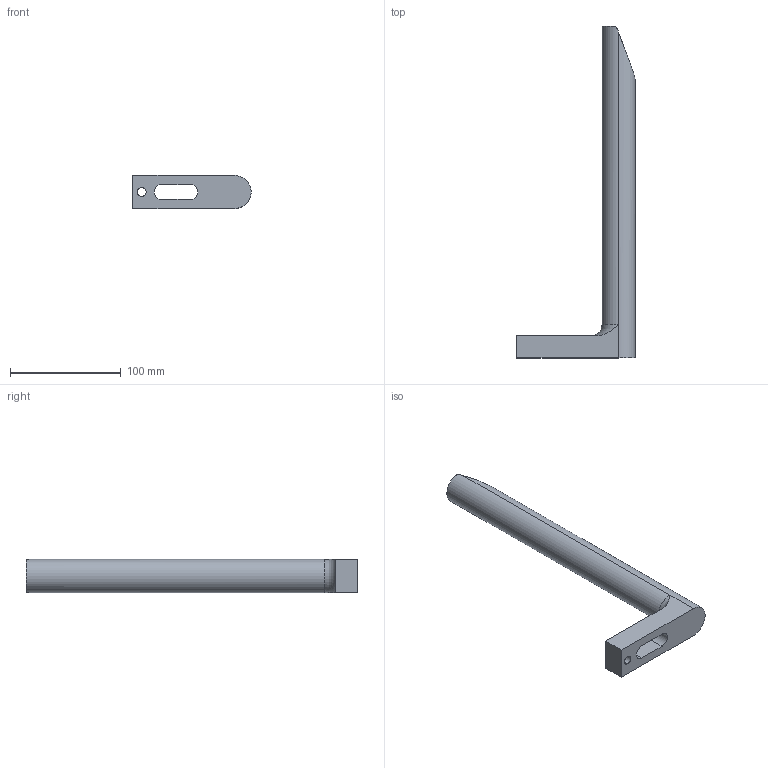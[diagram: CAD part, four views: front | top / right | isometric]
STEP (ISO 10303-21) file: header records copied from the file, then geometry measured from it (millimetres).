
FILE_DESCRIPTION(('CATIA V5 STEP Exchange'),'2;1');
FILE_NAME('C:\Users\Raffaele\Desktop\3D X SITO CF\702-705\GSB_OILLESS_M30101300\STEP-2.03\702-8.stp','2019-07-03T14:56:27+00:00',('none'),('none'),'CATIA Version 5 Release 20 GA (IN-10)','CATIA V5 STEP AP203','none');
FILE_SCHEMA(('CONFIG_CONTROL_DESIGN'));
Length unit declared in the file: millimetre
Products named in the file (1): 702-8
Bounding box: 107 x 300 x 30 mm (x, y, z)
Volume: 241752 mm3; surface area: 38299.6 mm2
Topology: 1 solids, 1 shells, 18 faces, 52 edges, 36 vertices
Faces by surface type: plane 9, cylinder 8, torus 1
Entity records: 745 total; most frequent: CARTESIAN_POINT 236, ORIENTED_EDGE 104, DIRECTION 77, EDGE_CURVE 52, VERTEX_POINT 36, AXIS2_PLACEMENT_3D 35, VECTOR 25, LINE 25
